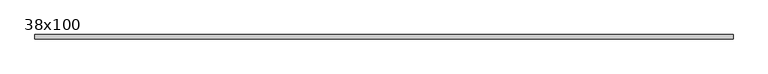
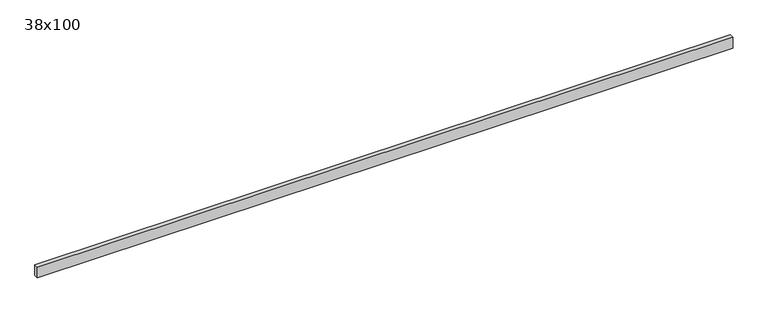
"""IFC4 building model written with IfcOpenShell, lengths in millimetres: beam geometry, Poutre - Bois de construction de dimensions courantes : 38x100."""

from ifc_helpers import new_model, si_unit, frame, origin, place, context, project, spatial, polyline, outline, extrude, source, transform, mapped, element, save


def beam_38x100_843611cb(model_context):
    return source(origin(), model_context, "Body", "SweptSolid", [
        extrude(outline(polyline([(3078.5, 19.05), (3078.5, -19.05), (-3078.5, -19.05), (-3078.5, 19.05), (3078.5, 19.05)])), frame((0.0, 0.0, -50.0), z_axis=(0.0, 0.0, 1.0), x_axis=(1.0, 0.0, 0.0)), (0.0, 0.0, 1.0), 100.0),
    ])


if __name__ == "__main__":
    model = new_model("IFC4")
    model_context = context("Model", 3, world=origin())
    ifc_project = project(units=[si_unit("LENGTHUNIT", "METRE", prefix="MILLI")], contexts=[model_context])
    site = spatial("IfcSite", under=ifc_project)
    building = spatial("IfcBuilding", under=site)
    placement = place(None, origin())
    beam_38x100_shape = beam_38x100_843611cb(model_context)
    element("IfcBeam", 1, ObjectType="Poutre - Bois de construction de dimensions courantes : 38x100", at=placement, inside=building, context=model_context, shape_type="MappedRepresentation", body=[
        mapped(beam_38x100_shape, transform((0.0, 0.0, 0.0), x_axis=(1.0, 0.0, 0.0), y_axis=(0.0, 1.0, 0.0), z_axis=(0.0, 0.0, 1.0))),
    ])
    save(model, "model.ifc")
